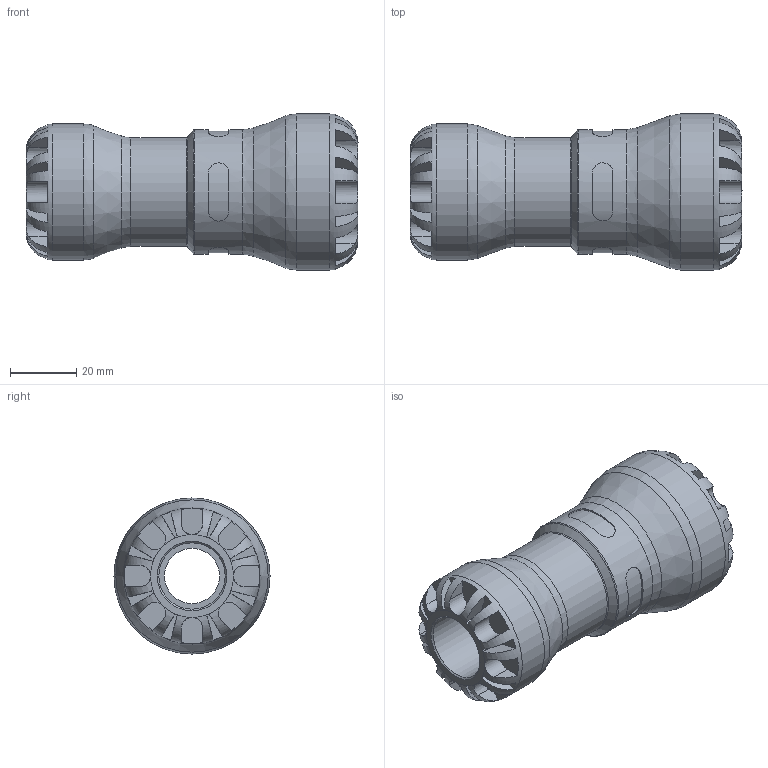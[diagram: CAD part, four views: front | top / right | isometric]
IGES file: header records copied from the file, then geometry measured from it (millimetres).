
Global section: file name: 101100025020_191100025020.ipt; native system: Autodesk Inventor 2015; preprocessor: unknown; author: KIM; date: 20170117.123307; units: millimetre
Bounding box: 100 x 47 x 47 mm (x, y, z)
Volume: 77500.9 mm3; surface area: 23819.8 mm2
Topology: 1 solids, 1 shells, 172 faces, 451 edges, 286 vertices
Faces by surface type: plane 108, revolution 37, cylinder 24, cone 3
Full cylindrical faces by diameter (mm): 32.8 x1, 37.6 x1, 41 x1, 47 x1
